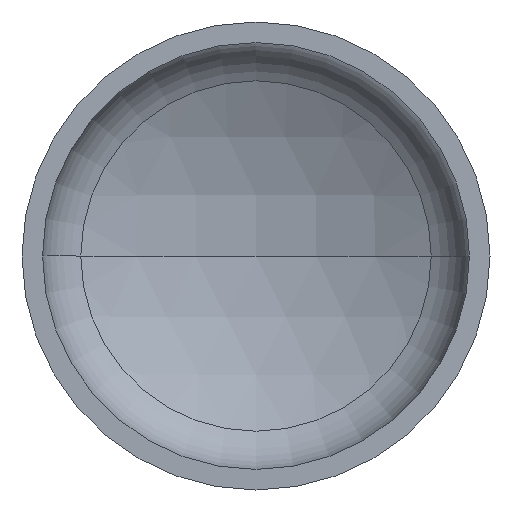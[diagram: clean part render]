
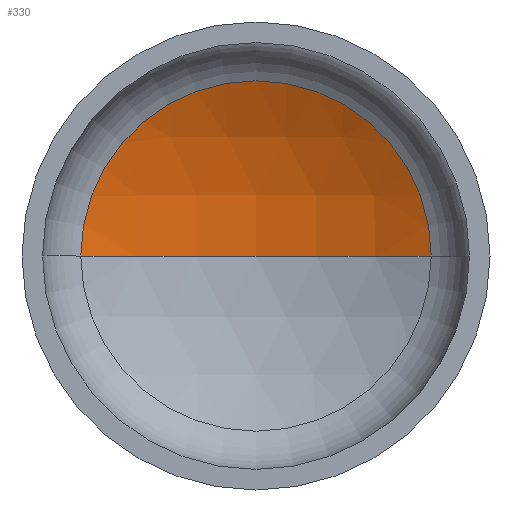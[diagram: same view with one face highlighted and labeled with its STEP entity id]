
A CAD part, front view. The second image highlights one B-rep face of the part: STEP entity #330.
In plain terms, the highlighted spherical face has radius 218 mm.
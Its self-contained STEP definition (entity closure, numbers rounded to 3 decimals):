
#2 = CARTESIAN_POINT ( 'NONE',  ( -102.188, 77.1, 0. ) ) ;
#10 = AXIS2_PLACEMENT_3D ( 'NONE', #292, #125, #316 ) ;
#11 = AXIS2_PLACEMENT_3D ( 'NONE', #349, #199, #369 ) ;
#17 = ORIENTED_EDGE ( 'NONE', *, *, #377, .T. ) ;
#21 = AXIS2_PLACEMENT_3D ( 'NONE', #224, #387, #248 ) ;
#39 = AXIS2_PLACEMENT_3D ( 'NONE', #159, #341, #365 ) ;
#53 = VERTEX_POINT ( 'NONE', #2 ) ;
#56 = VERTEX_POINT ( 'NONE', #233 ) ;
#76 = ORIENTED_EDGE ( 'NONE', *, *, #382, .T. ) ;
#81 = ORIENTED_EDGE ( 'NONE', *, *, #363, .F. ) ;
#113 = VERTEX_POINT ( 'NONE', #242 ) ;
#125 = DIRECTION ( 'NONE',  ( 0., -1., 0. ) ) ;
#139 = SPHERICAL_SURFACE ( 'NONE', #39, 218. ) ;
#141 = EDGE_LOOP ( 'NONE', ( #81, #17, #76 ) ) ;
#159 = CARTESIAN_POINT ( 'NONE',  ( 0., -115.466, 0. ) ) ;
#199 = DIRECTION ( 'NONE',  ( 0., 0., -1. ) ) ;
#201 = CIRCLE ( 'NONE', #10, 102.188 ) ;
#211 = CIRCLE ( 'NONE', #21, 218. ) ;
#224 = CARTESIAN_POINT ( 'NONE',  ( 0., -115.466, 0. ) ) ;
#233 = CARTESIAN_POINT ( 'NONE',  ( 102.188, 77.1, 0. ) ) ;
#234 = FACE_OUTER_BOUND ( 'NONE', #141, .T. ) ;
#242 = CARTESIAN_POINT ( 'NONE',  ( 0., 102.534, 0. ) ) ;
#248 = DIRECTION ( 'NONE',  ( 1., 0., 0. ) ) ;
#292 = CARTESIAN_POINT ( 'NONE',  ( 0., 77.1, 0. ) ) ;
#316 = DIRECTION ( 'NONE',  ( 1., 0., 0. ) ) ;
#330 = ADVANCED_FACE ( 'NONE', ( #234 ), #139, .F. ) ;
#341 = DIRECTION ( 'NONE',  ( 0., 0., -1. ) ) ;
#349 = CARTESIAN_POINT ( 'NONE',  ( 0., -115.466, 0. ) ) ;
#363 = EDGE_CURVE ( 'NONE', #113, #53, #211, .T. ) ;
#365 = DIRECTION ( 'NONE',  ( -1., 0., 0. ) ) ;
#369 = DIRECTION ( 'NONE',  ( -1., 0., 0. ) ) ;
#377 = EDGE_CURVE ( 'NONE', #113, #56, #390, .T. ) ;
#382 = EDGE_CURVE ( 'NONE', #56, #53, #201, .T. ) ;
#387 = DIRECTION ( 'NONE',  ( 0., 0., 1. ) ) ;
#390 = CIRCLE ( 'NONE', #11, 218. ) ;
